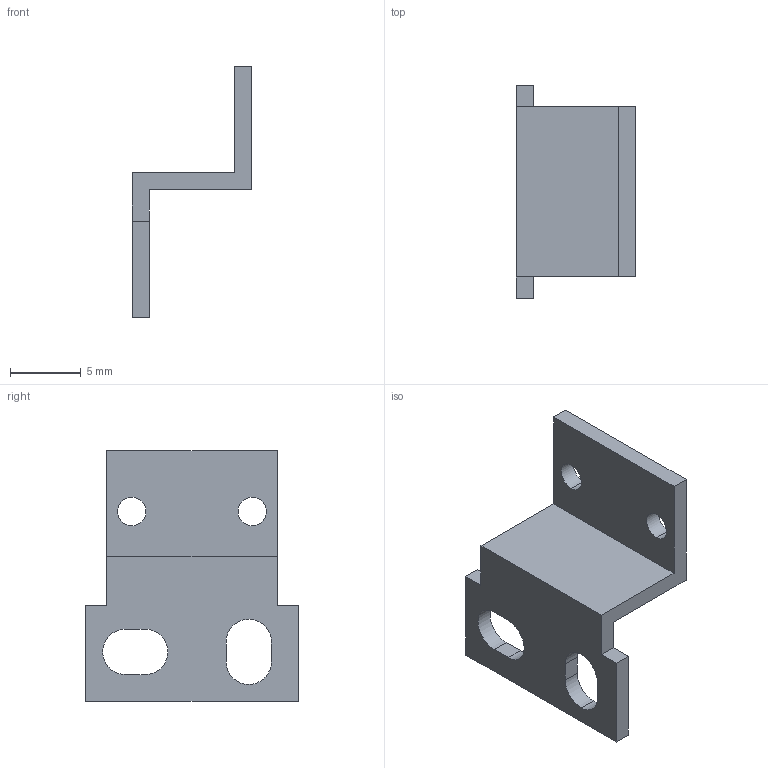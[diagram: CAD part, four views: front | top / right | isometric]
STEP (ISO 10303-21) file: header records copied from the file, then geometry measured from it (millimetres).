
FILE_DESCRIPTION (( 'STEP AP203' ), '1' );
FILE_NAME ('ms-exz-3.STEP', '2015-04-21T01:14:22', ( '' ), ( '' ), 'SwSTEP 2.0', 'SolidWorks 2010', '' );
FILE_SCHEMA (( 'CONFIG_CONTROL_DESIGN' ));
Length unit declared in the file: millimetre
Products named in the file (1): ms-exz-3
Bounding box: 8.45 x 15 x 17.7 mm (x, y, z)
Volume: 346.2 mm3; surface area: 718.8 mm2
Topology: 1 solids, 1 shells, 27 faces, 75 edges, 50 vertices
Faces by surface type: plane 18, cylinder 9
Entity records: 960 total; most frequent: CARTESIAN_POINT 153, ORIENTED_EDGE 150, DIRECTION 149, EDGE_CURVE 75, LINE 57, VECTOR 57, VERTEX_POINT 50, AXIS2_PLACEMENT_3D 46
